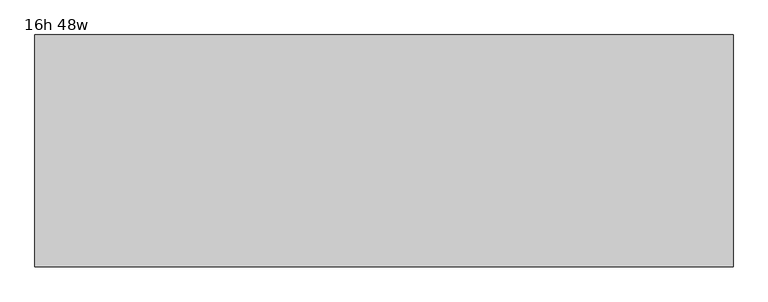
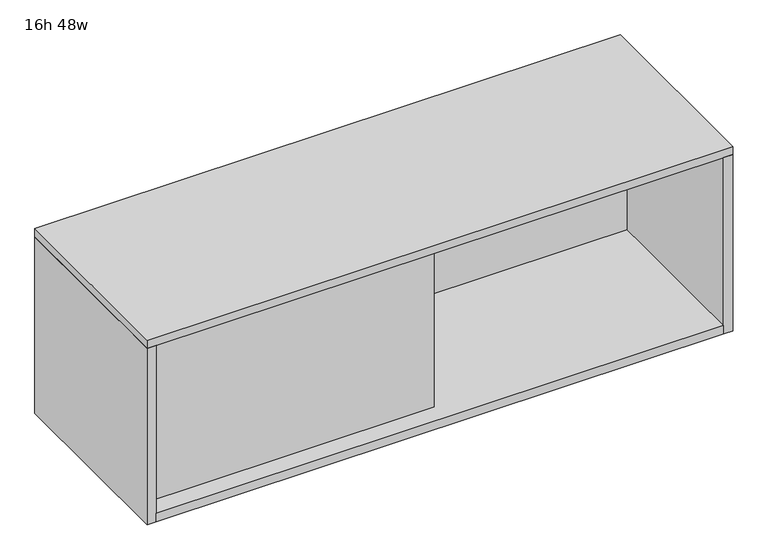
"""IFC4 building model written with IfcOpenShell, lengths in millimetres: furniture geometry, Haworth_BeHold_OverheadStorage_Open_DoubleSided : 16h 48w."""

from ifc_helpers import new_model, si_unit, frame, origin, place, context, project, spatial, polyline, outline, extrude, source, transform, mapped, element, save


def furniture_16h_48w_2317b783(model_context):
    return source(origin(), model_context, "Body", "SweptSolid", [
        extrude(outline(polyline([(-146.3736531, -454.9373918), (-747.4091553, -454.9373918), (-747.4091553, -437.721375), (-146.3736531, -437.721375), (-146.3736531, -454.9373918)])), frame((0.0, 0.0, 462.2867374), z_axis=(0.0, 0.0, 1.0), x_axis=(1.0, 0.0, 0.0)), (0.0, 0.0, 1.0), 370.0319437),
        extrude(outline(polyline([(-146.3736531, -146.478625), (-146.3736531, -437.721375), (-165.5736439, -437.721375), (-165.5736439, -146.478625), (-146.3736531, -146.478625)])), frame((0.0, 0.0, 462.2867374), z_axis=(0.0, 0.0, 1.0), x_axis=(1.0, 0.0, 0.0)), (0.0, 0.0, 1.0), 370.0319437),
        extrude(outline(polyline([(433.6908447, -89.662), (433.6908447, -494.538), (-747.4091553, -494.538), (-747.4091553, -89.662), (433.6908447, -89.662)])), frame((0.0, 0.0, 444.1027093), z_axis=(0.0, 0.0, 1.0), x_axis=(1.0, 0.0, 0.0)), (0.0, 0.0, 1.0), 18.1840281),
        extrude(outline(polyline([(-747.4091553, -89.662), (-747.4091553, -494.538), (-766.4591553, -494.538), (-766.4591553, -89.662), (-747.4091553, -89.662)])), frame((0.0, 0.0, 444.1027093), z_axis=(0.0, 0.0, 1.0), x_axis=(1.0, 0.0, 0.0)), (0.0, 0.0, 1.0), 388.2159719),
        extrude(outline(polyline([(452.7408447, -89.662), (452.7408447, -494.538), (433.6908447, -494.538), (433.6908447, -89.662), (452.7408447, -89.662)])), frame((0.0, 0.0, 444.1027093), z_axis=(0.0, 0.0, 1.0), x_axis=(1.0, 0.0, 0.0)), (0.0, 0.0, 1.0), 388.2159719),
        extrude(outline(polyline([(433.6908447, -129.2626082), (433.6908447, -146.478625), (-165.5736439, -146.478625), (-165.5736439, -129.2626082), (433.6908447, -129.2626082)])), frame((0.0, 0.0, 462.2867374), z_axis=(0.0, 0.0, 1.0), x_axis=(1.0, 0.0, 0.0)), (0.0, 0.0, 1.0), 370.0319437),
        extrude(outline(polyline([(452.7408447, -89.662), (452.7408447, -494.538), (-766.4591553, -494.538), (-766.4591553, -89.662), (452.7408447, -89.662)])), frame((0.0, 0.0, 832.3186811), z_axis=(0.0, 0.0, 1.0), x_axis=(1.0, 0.0, 0.0)), (0.0, 0.0, 1.0), 18.1840281),
    ])


if __name__ == "__main__":
    model = new_model("IFC4")
    model_context = context("Model", 3, world=origin())
    ifc_project = project(units=[si_unit("LENGTHUNIT", "METRE", prefix="MILLI")], contexts=[model_context])
    site = spatial("IfcSite", under=ifc_project)
    building = spatial("IfcBuilding", under=site)
    placement = place(None, origin())
    furniture_16h_48w_shape = furniture_16h_48w_2317b783(model_context)
    element("IfcFurniture", 1, ObjectType="Haworth_BeHold_OverheadStorage_Open_DoubleSided : 16h 48w", at=placement, inside=building, context=model_context, shape_type="MappedRepresentation", body=[
        mapped(furniture_16h_48w_shape, transform((0.0, 0.0, 0.0), x_axis=(1.0, 0.0, 0.0), y_axis=(0.0, 1.0, 0.0), z_axis=(0.0, 0.0, 1.0))),
    ])
    save(model, "model.ifc")
